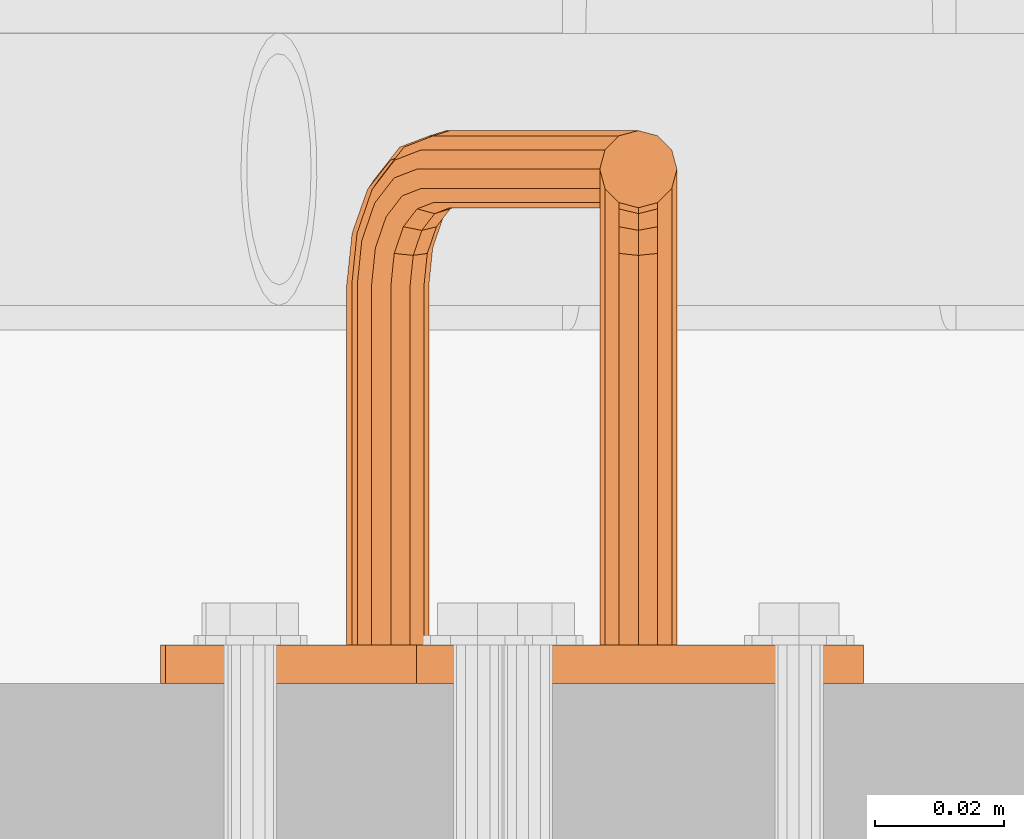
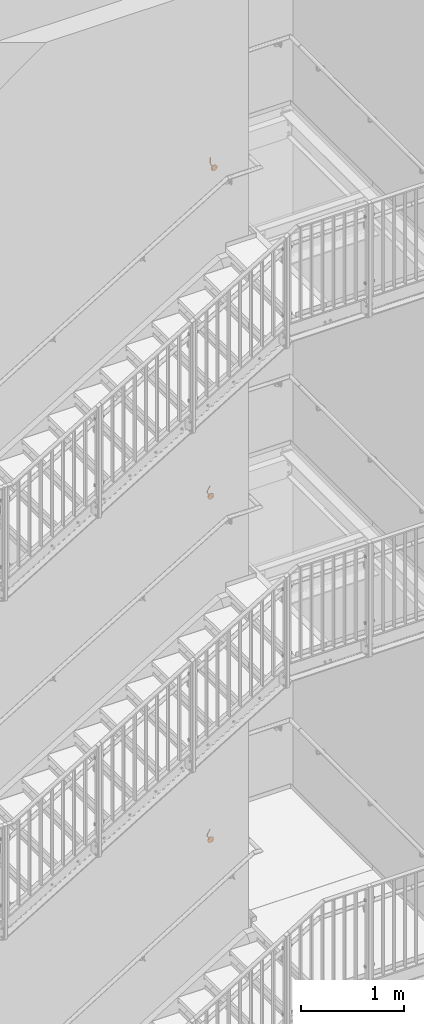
# One storey, part 391 of 410: 3 proxies.
"""IFC2X3 building model written with IfcOpenShell, lengths in millimetres."""

from ifc_helpers import new_model, entity, si_unit, converted_unit, origin_with_axes, place, context, project, spatial, faceted_brep, element, save


model = new_model("IFC2X3")

# Units and contexts
model_context = context("Model", 3, precision=1e-09, world=origin_with_axes())
ifc_project = project(units=[si_unit("LENGTHUNIT", "METRE", prefix="MILLI"), si_unit("AREAUNIT", "SQUARE_METRE"), si_unit("VOLUMEUNIT", "CUBIC_METRE"), converted_unit("PLANEANGLEUNIT", "DEGREE", entity("IfcPlaneAngleMeasure", 0.01745329), si_unit("PLANEANGLEUNIT", "RADIAN"), dimensions=[0, 0, 0, 0, 0, 0, 0])], contexts=[model_context])

# Site, building, storey
site_placement = place(None, origin_with_axes())
site = spatial("IfcSite", under=ifc_project, at=site_placement, Name="mKR Teilneubau & Sanierung BA1 - Ostfildern", CompositionType="ELEMENT")
building_placement = place(site_placement, origin_with_axes())
building = spatial("IfcBuilding", under=site, at=building_placement, Name="Struktur 1", CompositionType="ELEMENT")
storey_placement = place(building_placement, origin_with_axes())
storey = spatial("IfcBuildingStorey", under=building, at=storey_placement, Name="Default Storey", CompositionType="ELEMENT", Elevation=0.0)

# Proxies
proxy_1_placement = place(None, origin_with_axes())
element("IfcBuildingElementProxy", 1, at=proxy_1_placement, inside=storey, ObjectType="-", context=model_context, shape_type="Brep", body=[
    faceted_brep([(1506.319392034, 17111.0, 6659.725), (1506.319392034, 17105.0, 6659.725), (1505.75, 17105.0, 6657.6), (1505.75, 17111.0, 6657.6), (1543.59199205, 17111.0, 6691.529009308), (1554.143185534, 17111.0, 6686.900826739), (1562.619917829, 17111.0, 6679.097444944), (1568.103603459, 17111.0, 6668.964481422), (1570.0, 17111.0, 6657.6), (1568.103603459, 17111.0, 6646.235518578), (1562.619917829, 17111.0, 6636.102555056), (1554.143185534, 17111.0, 6628.299173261), (1543.59199205, 17111.0, 6623.670990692), (1532.109722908, 17111.0, 6622.719542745), (1520.940660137, 17111.0, 6625.547933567), (1511.295144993, 17111.0, 6631.849663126), (1504.218418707, 17111.0, 6640.941841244), (1500.477354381, 17111.0, 6651.83918934), (1500.477354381, 17111.0, 6663.36081066), (1504.218418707, 17111.0, 6674.258158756), (1511.295144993, 17111.0, 6683.350336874), (1520.940660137, 17111.0, 6689.652066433), (1532.109722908, 17111.0, 6692.480457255), (1506.319392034, 17111.0, 6655.475), (1507.875, 17111.0, 6653.919392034), (1510.0, 17111.0, 6653.35), (1512.125, 17111.0, 6653.919392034), (1513.680607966, 17111.0, 6655.475), (1514.25, 17111.0, 6657.6), (1513.680607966, 17111.0, 6659.725), (1512.125, 17111.0, 6661.280607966), (1510.0, 17111.0, 6661.85), (1507.875, 17111.0, 6661.280607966), (1556.319392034, 17111.0, 6659.725), (1555.75, 17111.0, 6657.6), (1556.319392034, 17111.0, 6655.475), (1557.875, 17111.0, 6653.919392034), (1560.0, 17111.0, 6653.35), (1562.125, 17111.0, 6653.919392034), (1563.680607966, 17111.0, 6655.475), (1564.25, 17111.0, 6657.6), (1563.680607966, 17111.0, 6659.725), (1562.125, 17111.0, 6661.280607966), (1560.0, 17111.0, 6661.85), (1557.875, 17111.0, 6661.280607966), (1507.875, 17105.0, 6661.280607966), (1543.59199205, 17105.0, 6623.670990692), (1554.143185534, 17105.0, 6628.299173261), (1562.619917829, 17105.0, 6636.102555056), (1568.103603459, 17105.0, 6646.235518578), (1570.0, 17105.0, 6657.6), (1568.103603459, 17105.0, 6668.964481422), (1562.619917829, 17105.0, 6679.097444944), (1554.143185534, 17105.0, 6686.900826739), (1543.59199205, 17105.0, 6691.529009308), (1532.109722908, 17105.0, 6692.480457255), (1520.940660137, 17105.0, 6689.652066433), (1511.295144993, 17105.0, 6683.350336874), (1504.218418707, 17105.0, 6674.258158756), (1500.477354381, 17105.0, 6663.36081066), (1500.477354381, 17105.0, 6651.83918934), (1504.218418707, 17105.0, 6640.941841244), (1511.295144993, 17105.0, 6631.849663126), (1520.940660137, 17105.0, 6625.547933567), (1532.109722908, 17105.0, 6622.719542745), (1510.0, 17105.0, 6661.85), (1512.125, 17105.0, 6661.280607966), (1513.680607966, 17105.0, 6659.725), (1514.25, 17105.0, 6657.6), (1513.680607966, 17105.0, 6655.475), (1512.125, 17105.0, 6653.919392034), (1510.0, 17105.0, 6653.35), (1507.875, 17105.0, 6653.919392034), (1506.319392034, 17105.0, 6655.475), (1556.319392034, 17105.0, 6655.475), (1555.75, 17105.0, 6657.6), (1556.319392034, 17105.0, 6659.725), (1557.875, 17105.0, 6661.280607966), (1560.0, 17105.0, 6661.85), (1562.125, 17105.0, 6661.280607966), (1563.680607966, 17105.0, 6659.725), (1564.25, 17105.0, 6657.6), (1563.680607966, 17105.0, 6655.475), (1562.125, 17105.0, 6653.919392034), (1560.0, 17105.0, 6653.35), (1557.875, 17105.0, 6653.919392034)], [[[0, 1, 2, 3]], [[4, 5, 6, 7, 8, 9, 10, 11, 12, 13, 14, 15, 16, 17, 18, 19, 20, 21, 22], [3, 23, 24, 25, 26, 27, 28, 29, 30, 31, 32, 0], [33, 34, 35, 36, 37, 38, 39, 40, 41, 42, 43, 44]], [[1, 0, 32, 45]], [[46, 47, 48, 49, 50, 51, 52, 53, 54, 55, 56, 57, 58, 59, 60, 61, 62, 63, 64], [1, 45, 65, 66, 67, 68, 69, 70, 71, 72, 73, 2], [74, 75, 76, 77, 78, 79, 80, 81, 82, 83, 84, 85]], [[3, 2, 73, 23]], [[59, 18, 17, 60]], [[23, 73, 72, 24]], [[45, 32, 31, 65]], [[18, 59, 58, 19]], [[24, 72, 71, 25]], [[60, 17, 16, 61]], [[65, 31, 30, 66]], [[57, 20, 19, 58]], [[25, 71, 70, 26]], [[20, 57, 56, 21]], [[15, 62, 61, 16]], [[66, 30, 29, 67]], [[62, 15, 14, 63]], [[26, 70, 69, 27]], [[67, 29, 28, 68]], [[21, 56, 55, 22]], [[27, 69, 68, 28]], [[63, 14, 13, 64]], [[22, 55, 54, 4]], [[75, 34, 33, 76]], [[64, 13, 12, 46]], [[34, 75, 74, 35]], [[76, 33, 44, 77]], [[4, 54, 53, 5]], [[46, 12, 11, 47]], [[35, 74, 85, 36]], [[77, 44, 43, 78]], [[5, 53, 52, 6]], [[47, 11, 10, 48]], [[36, 85, 84, 37]], [[78, 43, 42, 79]], [[6, 52, 51, 7]], [[48, 10, 9, 49]], [[37, 84, 83, 38]], [[50, 8, 7, 51]], [[79, 42, 41, 80]], [[8, 50, 49, 9]], [[38, 83, 82, 39]], [[80, 41, 40, 81]], [[39, 82, 81, 40]]]),
    faceted_brep([(1541.0, 17111.0, 6657.6), (1541.0, 17167.0, 6657.6), (1540.196152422, 17167.0, 6660.6), (1540.196152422, 17111.0, 6660.6), (1540.196152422, 17188.0, 6732.6), (1540.196152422, 17188.0, 6675.6), (1538.0, 17190.196152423, 6675.6), (1538.0, 17190.196152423, 6732.6), (1541.0, 17185.0, 6732.6), (1541.0, 17185.0, 6675.6), (1540.196152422, 17186.401470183, 6667.56364792), (1538.0, 17188.430450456, 6666.723216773), (1529.803847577, 17111.0, 6654.6), (1532.0, 17111.0, 6652.403847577), (1535.0, 17111.0, 6651.6), (1538.0, 17111.0, 6652.403847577), (1540.196152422, 17111.0, 6654.6), (1538.0, 17111.0, 6662.796152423), (1535.0, 17111.0, 6663.6), (1532.0, 17111.0, 6662.796152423), (1529.803847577, 17111.0, 6660.6), (1529.0, 17111.0, 6657.6), (1540.196152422, 17167.0, 6654.6), (1541.0, 17173.888301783, 6658.970168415), (1540.196152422, 17172.740251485, 6661.741807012), (1529.803847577, 17182.0, 6732.6), (1532.0, 17179.803847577, 6732.6), (1535.0, 17179.0, 6732.6), (1538.0, 17179.803847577, 6732.6), (1540.196152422, 17182.0, 6732.6), (1535.0, 17191.0, 6732.6), (1532.0, 17190.196152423, 6732.6), (1529.803847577, 17188.0, 6732.6), (1529.0, 17185.0, 6732.6), (1541.0, 17183.629831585, 6668.711698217), (1541.0, 17179.727922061, 6662.872077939), (1540.196152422, 17181.849242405, 6660.750757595), (1538.0, 17167.0, 6662.796152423), (1540.196152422, 17175.03635208, 6656.198529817), (1535.0, 17191.0, 6675.6), (1540.196152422, 17182.0, 6675.6), (1535.0, 17189.17310878, 6666.415597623), (1538.0, 17183.402156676, 6659.197843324), (1540.196152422, 17177.606601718, 6664.993398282), (1538.0, 17171.899820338, 6663.770787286), (1538.0, 17167.0, 6652.403847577), (1540.196152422, 17180.858192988, 6669.859748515), (1535.0, 17167.0, 6663.6), (1538.0, 17175.876783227, 6654.169549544), (1532.0, 17190.196152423, 6675.6), (1538.0, 17179.803847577, 6675.6), (1532.0, 17188.430450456, 6666.723216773), (1535.0, 17183.970562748, 6658.629437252), (1538.0, 17176.053687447, 6666.546312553), (1535.0, 17171.592201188, 6664.51344561), (1535.0, 17167.0, 6651.6), (1538.0, 17178.829212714, 6670.700179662), (1529.803847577, 17188.0, 6675.6), (1532.0, 17167.0, 6662.796152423), (1535.0, 17176.184402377, 6653.42689122), (1535.0, 17179.0, 6675.6), (1529.803847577, 17186.401470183, 6667.56364792), (1532.0, 17183.402156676, 6659.197843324), (1535.0, 17175.485281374, 6667.114718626), (1532.0, 17171.899820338, 6663.770787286), (1532.0, 17167.0, 6652.403847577), (1535.0, 17178.08655439, 6671.007798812), (1529.0, 17185.0, 6675.6), (1529.803847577, 17167.0, 6660.6), (1532.0, 17175.876783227, 6654.169549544), (1532.0, 17179.803847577, 6675.6), (1529.803847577, 17182.0, 6675.6), (1529.0, 17183.629831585, 6668.711698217), (1529.803847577, 17181.849242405, 6660.750757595), (1532.0, 17176.053687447, 6666.546312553), (1529.803847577, 17172.740251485, 6661.741807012), (1529.0, 17167.0, 6657.6), (1529.803847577, 17167.0, 6654.6), (1532.0, 17178.829212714, 6670.700179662), (1529.803847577, 17175.03635208, 6656.198529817), (1529.803847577, 17180.858192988, 6669.859748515), (1529.0, 17179.727922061, 6662.872077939), (1529.0, 17173.888301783, 6658.970168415), (1529.803847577, 17177.606601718, 6664.993398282)], [[[0, 1, 2, 3]], [[4, 5, 6, 7]], [[5, 4, 8, 9]], [[6, 5, 10, 11]], [[12, 13, 14, 15, 16, 0, 3, 17, 18, 19, 20, 21]], [[1, 0, 16, 22]], [[2, 1, 23, 24]], [[25, 26, 27, 28, 29, 8, 4, 7, 30, 31, 32, 33]], [[34, 10, 5, 9]], [[35, 36, 10, 34]], [[3, 2, 37, 17]], [[38, 23, 1, 22]], [[36, 35, 23, 38]], [[7, 6, 39, 30]], [[9, 8, 29, 40]], [[39, 6, 11, 41]], [[11, 10, 36, 42]], [[24, 23, 35, 43]], [[37, 2, 24, 44]], [[22, 16, 15, 45]], [[43, 35, 34, 46]], [[46, 34, 9, 40]], [[17, 37, 47, 18]], [[48, 38, 22, 45]], [[42, 36, 38, 48]], [[30, 39, 49, 31]], [[40, 29, 28, 50]], [[49, 39, 41, 51]], [[41, 11, 42, 52]], [[44, 24, 43, 53]], [[47, 37, 44, 54]], [[45, 15, 14, 55]], [[53, 43, 46, 56]], [[56, 46, 40, 50]], [[31, 49, 57, 32]], [[18, 47, 58, 19]], [[59, 48, 45, 55]], [[52, 42, 48, 59]], [[50, 28, 27, 60]], [[57, 49, 51, 61]], [[51, 41, 52, 62]], [[54, 44, 53, 63]], [[58, 47, 54, 64]], [[55, 14, 13, 65]], [[66, 56, 50, 60]], [[63, 53, 56, 66]], [[32, 57, 67, 33]], [[19, 58, 68, 20]], [[69, 59, 55, 65]], [[62, 52, 59, 69]], [[60, 27, 26, 70]], [[71, 25, 33, 67]], [[70, 26, 25, 71]], [[67, 57, 61, 72]], [[61, 51, 62, 73]], [[64, 54, 63, 74]], [[68, 58, 64, 75]], [[76, 21, 20, 68]], [[77, 12, 21, 76]], [[65, 13, 12, 77]], [[78, 66, 60, 70]], [[74, 63, 66, 78]], [[79, 69, 65, 77]], [[73, 62, 69, 79]], [[71, 67, 72, 80]], [[70, 71, 80, 78]], [[72, 61, 73, 81]], [[76, 68, 75, 82]], [[75, 64, 74, 83]], [[77, 76, 82, 79]], [[83, 74, 78, 80]], [[81, 73, 79, 82]], [[80, 72, 81, 83]], [[82, 75, 83, 81]]]),
])
proxy_2_placement = place(None, origin_with_axes())
element("IfcBuildingElementProxy", 2, at=proxy_2_placement, inside=storey, ObjectType="-", context=model_context, shape_type="Brep", body=[
    faceted_brep([(1472.923230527, 17111.0, 2809.784146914), (1472.923230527, 17105.0, 2809.784146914), (1471.342014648, 17105.0, 2808.254575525), (1471.342014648, 17111.0, 2808.254575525), (1521.245462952, 17111.0, 2817.889920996), (1527.913928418, 17111.0, 2808.494213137), (1531.170296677, 17111.0, 2797.44234345), (1530.661689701, 17111.0, 2785.931953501), (1526.443222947, 17111.0, 2775.210372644), (1518.972032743, 17111.0, 2766.439450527), (1509.057738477, 17111.0, 2760.569652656), (1497.774707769, 17111.0, 2758.23706271), (1486.345632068, 17111.0, 2759.694453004), (1476.009029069, 17111.0, 2764.783892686), (1467.885030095, 17111.0, 2772.953861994), (1462.853996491, 17111.0, 2783.319017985), (1461.461118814, 17111.0, 2794.756135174), (1463.857336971, 17111.0, 2806.02582445), (1469.782983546, 17111.0, 2815.906840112), (1478.595922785, 17111.0, 2823.328420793), (1489.341135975, 17111.0, 2827.486323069), (1500.854212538, 17111.0, 2827.929973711), (1511.887531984, 17111.0, 2824.611296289), (1470.737427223, 17111.0, 2806.139319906), (1471.271466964, 17111.0, 2804.005161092), (1472.801038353, 17111.0, 2802.423945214), (1474.916293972, 17111.0, 2801.819357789), (1477.050452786, 17111.0, 2802.353397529), (1478.631668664, 17111.0, 2803.882968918), (1479.23625609, 17111.0, 2805.998224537), (1478.702216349, 17111.0, 2808.132383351), (1477.17264496, 17111.0, 2809.71359923), (1475.057389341, 17111.0, 2810.318186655), (1515.803548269, 17111.0, 2784.068813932), (1514.22233239, 17111.0, 2782.539242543), (1513.617744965, 17111.0, 2780.423986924), (1514.151784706, 17111.0, 2778.28982811), (1515.681356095, 17111.0, 2776.708612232), (1517.796611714, 17111.0, 2776.104024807), (1519.930770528, 17111.0, 2776.638064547), (1521.511986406, 17111.0, 2778.167635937), (1522.116573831, 17111.0, 2780.282891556), (1521.582534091, 17111.0, 2782.41705037), (1520.052962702, 17111.0, 2783.998266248), (1517.937707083, 17111.0, 2784.602853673), (1475.057389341, 17105.0, 2810.318186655), (1486.345632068, 17105.0, 2759.694453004), (1497.774707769, 17105.0, 2758.23706271), (1509.057738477, 17105.0, 2760.569652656), (1518.972032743, 17105.0, 2766.439450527), (1526.443222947, 17105.0, 2775.210372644), (1530.661689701, 17105.0, 2785.931953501), (1531.170296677, 17105.0, 2797.44234345), (1527.913928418, 17105.0, 2808.494213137), (1521.245462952, 17105.0, 2817.889920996), (1511.887531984, 17105.0, 2824.611296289), (1500.854212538, 17105.0, 2827.929973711), (1489.341135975, 17105.0, 2827.486323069), (1478.595922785, 17105.0, 2823.328420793), (1469.782983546, 17105.0, 2815.906840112), (1463.857336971, 17105.0, 2806.02582445), (1461.461118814, 17105.0, 2794.756135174), (1462.853996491, 17105.0, 2783.319017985), (1467.885030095, 17105.0, 2772.953861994), (1476.009029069, 17105.0, 2764.783892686), (1477.17264496, 17105.0, 2809.71359923), (1478.702216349, 17105.0, 2808.132383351), (1479.23625609, 17105.0, 2805.998224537), (1478.631668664, 17105.0, 2803.882968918), (1477.050452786, 17105.0, 2802.353397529), (1474.916293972, 17105.0, 2801.819357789), (1472.801038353, 17105.0, 2802.423945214), (1471.271466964, 17105.0, 2804.005161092), (1470.737427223, 17105.0, 2806.139319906), (1513.617744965, 17105.0, 2780.423986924), (1514.22233239, 17105.0, 2782.539242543), (1515.803548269, 17105.0, 2784.068813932), (1517.937707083, 17105.0, 2784.602853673), (1520.052962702, 17105.0, 2783.998266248), (1521.582534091, 17105.0, 2782.41705037), (1522.116573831, 17105.0, 2780.282891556), (1521.511986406, 17105.0, 2778.167635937), (1519.930770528, 17105.0, 2776.638064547), (1517.796611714, 17105.0, 2776.104024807), (1515.681356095, 17105.0, 2776.708612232), (1514.151784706, 17105.0, 2778.28982811)], [[[0, 1, 2, 3]], [[4, 5, 6, 7, 8, 9, 10, 11, 12, 13, 14, 15, 16, 17, 18, 19, 20, 21, 22], [3, 23, 24, 25, 26, 27, 28, 29, 30, 31, 32, 0], [33, 34, 35, 36, 37, 38, 39, 40, 41, 42, 43, 44]], [[1, 0, 32, 45]], [[46, 47, 48, 49, 50, 51, 52, 53, 54, 55, 56, 57, 58, 59, 60, 61, 62, 63, 64], [1, 45, 65, 66, 67, 68, 69, 70, 71, 72, 73, 2], [74, 75, 76, 77, 78, 79, 80, 81, 82, 83, 84, 85]], [[3, 2, 73, 23]], [[59, 18, 17, 60]], [[23, 73, 72, 24]], [[45, 32, 31, 65]], [[18, 59, 58, 19]], [[24, 72, 71, 25]], [[60, 17, 16, 61]], [[65, 31, 30, 66]], [[57, 20, 19, 58]], [[25, 71, 70, 26]], [[20, 57, 56, 21]], [[15, 62, 61, 16]], [[66, 30, 29, 67]], [[62, 15, 14, 63]], [[26, 70, 69, 27]], [[67, 29, 28, 68]], [[21, 56, 55, 22]], [[27, 69, 68, 28]], [[63, 14, 13, 64]], [[22, 55, 54, 4]], [[75, 34, 33, 76]], [[64, 13, 12, 46]], [[34, 75, 74, 35]], [[76, 33, 44, 77]], [[4, 54, 53, 5]], [[46, 12, 11, 47]], [[35, 74, 85, 36]], [[77, 44, 43, 78]], [[5, 53, 52, 6]], [[47, 11, 10, 48]], [[36, 85, 84, 37]], [[78, 43, 42, 79]], [[6, 52, 51, 7]], [[48, 10, 9, 49]], [[37, 84, 83, 38]], [[50, 8, 7, 51]], [[79, 42, 41, 80]], [[8, 50, 49, 9]], [[38, 83, 82, 39]], [[80, 41, 40, 81]], [[39, 82, 81, 40]]]),
    faceted_brep([(1501.572638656, 17111.0, 2790.125265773), (1501.572638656, 17167.0, 2790.125265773), (1502.426173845, 17167.0, 2793.111509), (1502.426173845, 17111.0, 2793.111509), (1539.456253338, 17188.0, 2854.859166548), (1510.140773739, 17188.0, 2805.975604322), (1508.257339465, 17190.196152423, 2807.105100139), (1537.572819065, 17190.196152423, 2855.988662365), (1540.145638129, 17185.0, 2854.445742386), (1510.83015853, 17185.0, 2805.56218016), (1506.007624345, 17186.401470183, 2799.083577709), (1503.691950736, 17188.430450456, 2799.492314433), (1490.42782721, 17111.0, 2793.310702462), (1491.181765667, 17111.0, 2790.297772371), (1493.341160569, 17111.0, 2788.065467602), (1496.327403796, 17111.0, 2787.211932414), (1499.340333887, 17111.0, 2787.965870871), (1501.672235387, 17111.0, 2796.12443909), (1499.512840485, 17111.0, 2798.35674386), (1496.526597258, 17111.0, 2799.210279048), (1493.513667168, 17111.0, 2798.456340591), (1491.281362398, 17111.0, 2796.296945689), (1499.340333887, 17167.0, 2787.965870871), (1502.277325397, 17173.888301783, 2791.300330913), (1503.013412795, 17172.740251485, 2794.09072995), (1530.543746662, 17182.0, 2860.203998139), (1532.427180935, 17179.803847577, 2859.074502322), (1535.0, 17179.0, 2857.531582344), (1537.572819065, 17179.803847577, 2855.988662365), (1539.456253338, 17182.0, 2854.859166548), (1535.0, 17191.0, 2857.531582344), (1532.427180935, 17190.196152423, 2859.074502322), (1530.543746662, 17188.0, 2860.203998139), (1529.854361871, 17185.0, 2860.617422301), (1507.287459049, 17183.629831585, 2799.654728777), (1504.28410345, 17179.727922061, 2794.646633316), (1502.50370948, 17181.849242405, 2793.240799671), (1501.672235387, 17167.0, 2796.12443909), (1500.162468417, 17175.03635208, 2789.336780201), (1505.684520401, 17191.0, 2808.648020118), (1510.140773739, 17182.0, 2805.975604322), (1500.960921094, 17189.17310878, 2800.771418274), (1499.821601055, 17183.402156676, 2793.038506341), (1504.68572784, 17177.606601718, 2796.879315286), (1502.173496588, 17171.899820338, 2796.960292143), (1496.327403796, 17167.0, 2787.211932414), (1507.188524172, 17180.858192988, 2801.05272817), (1499.512840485, 17167.0, 2798.35674386), (1497.235516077, 17175.876783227, 2788.726209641), (1503.111701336, 17190.196152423, 2810.190940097), (1508.257339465, 17179.803847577, 2807.105100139), (1498.546312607, 17188.430450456, 2802.578154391), (1496.956446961, 17183.970562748, 2794.09395766), (1503.600967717, 17176.053687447, 2799.34060025), (1499.982631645, 17171.592201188, 2799.14012062), (1493.341160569, 17167.0, 2788.065467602), (1505.737329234, 17178.829212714, 2802.902983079), (1501.228267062, 17188.0, 2811.320435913), (1496.526597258, 17167.0, 2799.210279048), (1494.28074289, 17176.184402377, 2789.632221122), (1505.684520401, 17179.0, 2808.648020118), (1497.095117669, 17186.401470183, 2804.4284093), (1494.675962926, 17183.402156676, 2796.124346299), (1501.320483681, 17175.485281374, 2801.370988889), (1497.027858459, 17171.899820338, 2800.046132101), (1491.181765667, 17167.0, 2790.297772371), (1503.322720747, 17178.08655439, 2804.709719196), (1500.538882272, 17185.0, 2811.733860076), (1493.513667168, 17167.0, 2798.456340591), (1492.089877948, 17175.876783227, 2791.812049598), (1503.111701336, 17179.803847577, 2810.190940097), (1501.228267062, 17182.0, 2811.320435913), (1496.996182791, 17183.629831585, 2805.826408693), (1493.591202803, 17181.849242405, 2798.585631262), (1498.455329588, 17176.053687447, 2802.426440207), (1494.100906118, 17172.740251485, 2799.435561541), (1491.281362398, 17167.0, 2796.296945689), (1490.42782721, 17167.0, 2793.310702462), (1500.591691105, 17178.829212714, 2805.988823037), (1491.249961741, 17175.03635208, 2794.681611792), (1498.276017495, 17180.858192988, 2806.397559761), (1493.992827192, 17179.727922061, 2800.818313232), (1491.986049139, 17173.888301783, 2797.472010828), (1495.773221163, 17177.606601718, 2802.224146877)], [[[0, 1, 2, 3]], [[4, 5, 6, 7]], [[5, 4, 8, 9]], [[6, 5, 10, 11]], [[12, 13, 14, 15, 16, 0, 3, 17, 18, 19, 20, 21]], [[1, 0, 16, 22]], [[2, 1, 23, 24]], [[25, 26, 27, 28, 29, 8, 4, 7, 30, 31, 32, 33]], [[34, 10, 5, 9]], [[35, 36, 10, 34]], [[3, 2, 37, 17]], [[38, 23, 1, 22]], [[36, 35, 23, 38]], [[7, 6, 39, 30]], [[9, 8, 29, 40]], [[39, 6, 11, 41]], [[11, 10, 36, 42]], [[24, 23, 35, 43]], [[37, 2, 24, 44]], [[22, 16, 15, 45]], [[43, 35, 34, 46]], [[46, 34, 9, 40]], [[17, 37, 47, 18]], [[48, 38, 22, 45]], [[42, 36, 38, 48]], [[30, 39, 49, 31]], [[40, 29, 28, 50]], [[49, 39, 41, 51]], [[41, 11, 42, 52]], [[44, 24, 43, 53]], [[47, 37, 44, 54]], [[45, 15, 14, 55]], [[53, 43, 46, 56]], [[56, 46, 40, 50]], [[31, 49, 57, 32]], [[18, 47, 58, 19]], [[59, 48, 45, 55]], [[52, 42, 48, 59]], [[50, 28, 27, 60]], [[57, 49, 51, 61]], [[51, 41, 52, 62]], [[54, 44, 53, 63]], [[58, 47, 54, 64]], [[55, 14, 13, 65]], [[66, 56, 50, 60]], [[63, 53, 56, 66]], [[32, 57, 67, 33]], [[19, 58, 68, 20]], [[69, 59, 55, 65]], [[62, 52, 59, 69]], [[60, 27, 26, 70]], [[71, 25, 33, 67]], [[70, 26, 25, 71]], [[67, 57, 61, 72]], [[61, 51, 62, 73]], [[64, 54, 63, 74]], [[68, 58, 64, 75]], [[76, 21, 20, 68]], [[77, 12, 21, 76]], [[65, 13, 12, 77]], [[78, 66, 60, 70]], [[74, 63, 66, 78]], [[79, 69, 65, 77]], [[73, 62, 69, 79]], [[71, 67, 72, 80]], [[70, 71, 80, 78]], [[72, 61, 73, 81]], [[76, 68, 75, 82]], [[75, 64, 74, 83]], [[77, 76, 82, 79]], [[83, 74, 78, 80]], [[81, 73, 79, 82]], [[80, 72, 81, 83]], [[82, 75, 83, 81]]]),
])
proxy_3_placement = place(None, origin_with_axes())
element("IfcBuildingElementProxy", 3, at=proxy_3_placement, inside=storey, ObjectType="-", context=model_context, shape_type="Brep", body=[
    faceted_brep([(1472.340549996, 17111.0, -1244.418931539), (1472.340549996, 17105.0, -1244.418931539), (1470.740637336, 17105.0, -1245.928935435), (1470.740637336, 17111.0, -1245.928935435), (1520.758841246, 17111.0, -1236.908219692), (1527.311218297, 17111.0, -1246.385250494), (1530.431382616, 17111.0, -1257.476342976), (1529.781215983, 17111.0, -1268.979605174), (1525.431174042, 17111.0, -1279.648480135), (1517.852651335, 17111.0, -1288.326829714), (1507.866898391, 17111.0, -1294.074220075), (1496.556026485, 17111.0, -1296.267832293), (1485.145744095, 17111.0, -1294.669954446), (1474.872532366, 17111.0, -1289.453741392), (1466.849653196, 17111.0, -1281.184450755), (1461.946510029, 17111.0, -1270.758188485), (1460.694434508, 17111.0, -1259.30480188), (1463.229108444, 17111.0, -1248.065443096), (1469.275860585, 17111.0, -1238.258071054), (1478.179431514, 17111.0, -1230.945466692), (1488.974981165, 17111.0, -1226.920064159), (1500.492644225, 17111.0, -1226.61807828), (1511.484303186, 17111.0, -1230.072233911), (1514.90127895, 17111.0, -1270.659822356), (1513.30136629, 17111.0, -1272.169826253), (1512.670803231, 17111.0, -1274.277484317), (1513.178548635, 17111.0, -1276.418051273), (1514.688552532, 17111.0, -1278.017963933), (1516.796210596, 17111.0, -1278.648526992), (1518.936777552, 17111.0, -1278.140781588), (1520.536690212, 17111.0, -1276.630777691), (1521.167253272, 17111.0, -1274.523119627), (1520.659507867, 17111.0, -1272.382552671), (1519.149503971, 17111.0, -1270.782640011), (1517.041845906, 17111.0, -1270.152076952), (1470.110074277, 17111.0, -1248.0365935), (1470.617819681, 17111.0, -1250.177160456), (1472.127823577, 17111.0, -1251.777073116), (1474.235481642, 17111.0, -1252.407636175), (1476.376048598, 17111.0, -1251.899890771), (1477.975961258, 17111.0, -1250.389886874), (1478.606524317, 17111.0, -1248.28222881), (1478.098778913, 17111.0, -1246.141661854), (1476.588775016, 17111.0, -1244.541749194), (1474.481116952, 17111.0, -1243.911186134), (1474.481116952, 17105.0, -1243.911186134), (1485.145744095, 17105.0, -1294.669954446), (1496.556026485, 17105.0, -1296.267832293), (1507.866898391, 17105.0, -1294.074220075), (1517.852651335, 17105.0, -1288.326829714), (1525.431174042, 17105.0, -1279.648480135), (1529.781215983, 17105.0, -1268.979605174), (1530.431382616, 17105.0, -1257.476342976), (1527.311218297, 17105.0, -1246.385250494), (1520.758841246, 17105.0, -1236.908219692), (1511.484303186, 17105.0, -1230.072233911), (1500.492644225, 17105.0, -1226.61807828), (1488.974981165, 17105.0, -1226.920064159), (1478.179431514, 17105.0, -1230.945466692), (1469.275860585, 17105.0, -1238.258071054), (1463.229108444, 17105.0, -1248.065443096), (1460.694434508, 17105.0, -1259.30480188), (1461.946510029, 17105.0, -1270.758188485), (1466.849653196, 17105.0, -1281.184450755), (1474.872532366, 17105.0, -1289.453741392), (1476.588775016, 17105.0, -1244.541749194), (1478.098778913, 17105.0, -1246.141661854), (1478.606524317, 17105.0, -1248.28222881), (1477.975961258, 17105.0, -1250.389886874), (1476.376048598, 17105.0, -1251.899890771), (1474.235481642, 17105.0, -1252.407636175), (1472.127823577, 17105.0, -1251.777073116), (1470.617819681, 17105.0, -1250.177160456), (1470.110074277, 17105.0, -1248.0365935), (1512.670803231, 17105.0, -1274.277484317), (1513.30136629, 17105.0, -1272.169826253), (1514.90127895, 17105.0, -1270.659822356), (1517.041845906, 17105.0, -1270.152076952), (1519.149503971, 17105.0, -1270.782640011), (1520.659507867, 17105.0, -1272.382552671), (1521.167253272, 17105.0, -1274.523119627), (1520.536690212, 17105.0, -1276.630777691), (1518.936777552, 17105.0, -1278.140781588), (1516.796210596, 17105.0, -1278.648526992), (1514.688552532, 17105.0, -1278.017963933), (1513.178548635, 17105.0, -1276.418051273)], [[[0, 1, 2, 3]], [[4, 5, 6, 7, 8, 9, 10, 11, 12, 13, 14, 15, 16, 17, 18, 19, 20, 21, 22], [23, 24, 25, 26, 27, 28, 29, 30, 31, 32, 33, 34], [3, 35, 36, 37, 38, 39, 40, 41, 42, 43, 44, 0]], [[1, 0, 44, 45]], [[46, 47, 48, 49, 50, 51, 52, 53, 54, 55, 56, 57, 58, 59, 60, 61, 62, 63, 64], [1, 45, 65, 66, 67, 68, 69, 70, 71, 72, 73, 2], [74, 75, 76, 77, 78, 79, 80, 81, 82, 83, 84, 85]], [[3, 2, 73, 35]], [[59, 18, 17, 60]], [[35, 73, 72, 36]], [[45, 44, 43, 65]], [[18, 59, 58, 19]], [[36, 72, 71, 37]], [[60, 17, 16, 61]], [[65, 43, 42, 66]], [[57, 20, 19, 58]], [[37, 71, 70, 38]], [[20, 57, 56, 21]], [[15, 62, 61, 16]], [[66, 42, 41, 67]], [[62, 15, 14, 63]], [[38, 70, 69, 39]], [[67, 41, 40, 68]], [[21, 56, 55, 22]], [[39, 69, 68, 40]], [[63, 14, 13, 64]], [[22, 55, 54, 4]], [[75, 24, 23, 76]], [[64, 13, 12, 46]], [[24, 75, 74, 25]], [[76, 23, 34, 77]], [[4, 54, 53, 5]], [[46, 12, 11, 47]], [[25, 74, 85, 26]], [[77, 34, 33, 78]], [[5, 53, 52, 6]], [[47, 11, 10, 48]], [[26, 85, 84, 27]], [[78, 33, 32, 79]], [[6, 52, 51, 7]], [[48, 10, 9, 49]], [[27, 84, 83, 28]], [[50, 8, 7, 51]], [[79, 32, 31, 80]], [[8, 50, 49, 9]], [[28, 83, 82, 29]], [[80, 31, 30, 81]], [[29, 82, 81, 30]]]),
    faceted_brep([(1500.745951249, 17111.0, -1264.428763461), (1500.745951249, 17167.0, -1264.428763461), (1501.63615792, 17167.0, -1261.453246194), (1501.63615792, 17111.0, -1261.453246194), (1539.423040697, 17188.0, -1200.1657965), (1509.508425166, 17188.0, -1248.685027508), (1507.639028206, 17190.196152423, -1247.532447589), (1537.553643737, 17190.196152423, -1199.013216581), (1540.107287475, 17185.0, -1200.58767003), (1510.192671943, 17185.0, -1249.106901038), (1505.290804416, 17186.401470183, -1255.525687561), (1502.980334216, 17188.430450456, -1255.088494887), (1489.641169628, 17111.0, -1261.106466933), (1490.357986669, 17111.0, -1264.128443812), (1492.489756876, 17111.0, -1266.387144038), (1495.465274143, 17111.0, -1267.27735071), (1498.487251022, 17111.0, -1266.560533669), (1500.919340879, 17111.0, -1258.431269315), (1498.787570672, 17111.0, -1256.172569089), (1495.812053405, 17111.0, -1255.282362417), (1492.790076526, 17111.0, -1255.999179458), (1490.5313763, 17111.0, -1258.130949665), (1498.487251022, 17167.0, -1266.560533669), (1501.465040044, 17173.888301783, -1263.262456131), (1502.235398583, 17172.740251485, -1260.481323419), (1530.576959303, 17182.0, -1194.711729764), (1532.446356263, 17179.803847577, -1195.864309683), (1535.0, 17179.0, -1197.438763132), (1537.553643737, 17179.803847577, -1199.013216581), (1539.423040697, 17182.0, -1200.1657965), (1535.0, 17191.0, -1197.438763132), (1532.446356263, 17190.196152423, -1195.864309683), (1530.576959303, 17188.0, -1194.711729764), (1529.892712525, 17185.0, -1194.289856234), (1506.577568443, 17183.629831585, -1254.97032394), (1503.51283168, 17179.727922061, -1259.941093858), (1501.715278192, 17181.849242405, -1261.324919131), (1500.919340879, 17167.0, -1258.431269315), (1499.32618795, 17175.03635208, -1265.199841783), (1505.085384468, 17191.0, -1245.95799414), (1509.508425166, 17182.0, -1248.685027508), (1500.265246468, 17189.17310878, -1253.775891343), (1499.030884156, 17183.402156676, -1261.49420248), (1503.941891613, 17177.606601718, -1257.713521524), (1501.43084662, 17171.899820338, -1257.60164591), (1495.465274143, 17167.0, -1267.27735071), (1506.495838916, 17180.858192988, -1253.57121326), (1498.787570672, 17167.0, -1256.172569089), (1496.391945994, 17175.876783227, -1265.774359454), (1502.531740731, 17190.196152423, -1244.383540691), (1507.639028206, 17179.803847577, -1247.532447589), (1497.873046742, 17188.430450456, -1251.939587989), (1496.178930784, 17183.970562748, -1260.403584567), (1502.88749173, 17176.053687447, -1255.239078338), (1499.266963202, 17171.592201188, -1255.395030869), (1492.489756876, 17167.0, -1266.387144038), (1505.067515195, 17178.829212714, -1251.703246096), (1500.662343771, 17188.0, -1243.230960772), (1495.812053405, 17167.0, -1255.282362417), (1493.448541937, 17176.184402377, -1264.832067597), (1505.085384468, 17179.0, -1245.95799414), (1496.444723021, 17186.401470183, -1250.071620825), (1493.923596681, 17183.402156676, -1258.345295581), (1500.632157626, 17175.485281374, -1253.180789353), (1496.323559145, 17171.899820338, -1254.452739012), (1490.357986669, 17167.0, -1264.128443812), (1502.675315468, 17178.08655439, -1249.866942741), (1499.978096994, 17185.0, -1242.809087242), (1492.790076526, 17167.0, -1255.999179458), (1491.284658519, 17175.876783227, -1262.625452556), (1502.531740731, 17179.803847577, -1244.383540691), (1500.662343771, 17182.0, -1243.230960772), (1496.362993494, 17183.629831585, -1248.672510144), (1492.869196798, 17181.849242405, -1255.870852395), (1497.780204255, 17176.053687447, -1252.09017144), (1493.389317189, 17172.740251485, -1255.027256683), (1490.5313763, 17167.0, -1258.130949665), (1489.641169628, 17167.0, -1261.106466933), (1499.960227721, 17178.829212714, -1248.554339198), (1490.480106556, 17175.03635208, -1259.745775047), (1497.649757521, 17180.858192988, -1248.117146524), (1493.298256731, 17179.727922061, -1253.643280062), (1491.250465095, 17173.888301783, -1256.964642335), (1495.095810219, 17177.606601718, -1252.259454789)], [[[0, 1, 2, 3]], [[4, 5, 6, 7]], [[5, 4, 8, 9]], [[6, 5, 10, 11]], [[12, 13, 14, 15, 16, 0, 3, 17, 18, 19, 20, 21]], [[1, 0, 16, 22]], [[2, 1, 23, 24]], [[25, 26, 27, 28, 29, 8, 4, 7, 30, 31, 32, 33]], [[34, 10, 5, 9]], [[35, 36, 10, 34]], [[3, 2, 37, 17]], [[38, 23, 1, 22]], [[36, 35, 23, 38]], [[7, 6, 39, 30]], [[9, 8, 29, 40]], [[39, 6, 11, 41]], [[11, 10, 36, 42]], [[24, 23, 35, 43]], [[37, 2, 24, 44]], [[22, 16, 15, 45]], [[43, 35, 34, 46]], [[46, 34, 9, 40]], [[17, 37, 47, 18]], [[48, 38, 22, 45]], [[42, 36, 38, 48]], [[30, 39, 49, 31]], [[40, 29, 28, 50]], [[49, 39, 41, 51]], [[41, 11, 42, 52]], [[44, 24, 43, 53]], [[47, 37, 44, 54]], [[45, 15, 14, 55]], [[53, 43, 46, 56]], [[56, 46, 40, 50]], [[31, 49, 57, 32]], [[18, 47, 58, 19]], [[59, 48, 45, 55]], [[52, 42, 48, 59]], [[50, 28, 27, 60]], [[57, 49, 51, 61]], [[51, 41, 52, 62]], [[54, 44, 53, 63]], [[58, 47, 54, 64]], [[55, 14, 13, 65]], [[66, 56, 50, 60]], [[63, 53, 56, 66]], [[32, 57, 67, 33]], [[19, 58, 68, 20]], [[69, 59, 55, 65]], [[62, 52, 59, 69]], [[60, 27, 26, 70]], [[71, 25, 33, 67]], [[70, 26, 25, 71]], [[67, 57, 61, 72]], [[61, 51, 62, 73]], [[64, 54, 63, 74]], [[68, 58, 64, 75]], [[76, 21, 20, 68]], [[77, 12, 21, 76]], [[65, 13, 12, 77]], [[78, 66, 60, 70]], [[74, 63, 66, 78]], [[79, 69, 65, 77]], [[73, 62, 69, 79]], [[71, 67, 72, 80]], [[70, 71, 80, 78]], [[72, 61, 73, 81]], [[76, 68, 75, 82]], [[75, 64, 74, 83]], [[77, 76, 82, 79]], [[83, 74, 78, 80]], [[81, 73, 79, 82]], [[80, 72, 81, 83]], [[82, 75, 83, 81]]]),
])

save(model, "model.ifc")
